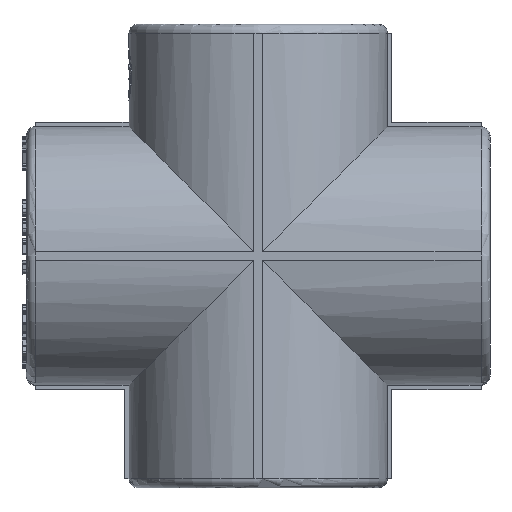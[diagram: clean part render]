
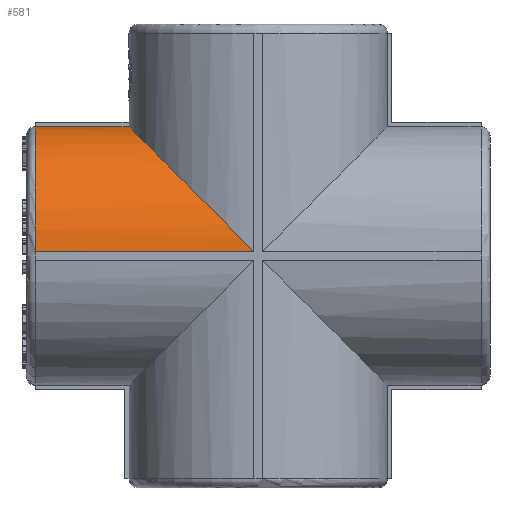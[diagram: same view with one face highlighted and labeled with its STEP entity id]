
A CAD part, left-side view. The second image highlights one B-rep face of the part: STEP entity #581.
In plain terms, the highlighted cylindrical face has radius 14.5 mm (diameter 29 mm), a partial arc.
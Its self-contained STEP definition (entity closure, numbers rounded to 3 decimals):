
#581=ADVANCED_FACE('',(#4572),#4574,.T.);
#4572=FACE_BOUND('',#4573,.T.);
#4573=EDGE_LOOP('',(#12137,#12138,#12139,#12140));
#4574=CYLINDRICAL_SURFACE('',#4575,14.5);
#4575=AXIS2_PLACEMENT_3D('',#4576,#4577,#4578);
#4576=CARTESIAN_POINT('',(0.,-26.,0.));
#4577=DIRECTION('',(0.,1.,0.));
#4578=DIRECTION('',(-1.,0.,0.));
#12137=ORIENTED_EDGE('',*,*,#17495,.F.);
#12138=ORIENTED_EDGE('',*,*,#17496,.T.);
#12139=ORIENTED_EDGE('',*,*,#17497,.F.);
#12140=ORIENTED_EDGE('',*,*,#17487,.F.);
#17487=EDGE_CURVE('',#21463,#21465,#21466,.T.);
#17495=EDGE_CURVE('',#21478,#21463,#21479,.T.);
#17496=EDGE_CURVE('',#21478,#21480,#21481,.F.);
#17497=EDGE_CURVE('',#21465,#21480,#21482,.F.);
#21463=VERTEX_POINT('',#29409);
#21465=VERTEX_POINT('',#29414);
#21466=CIRCLE('',#29415,14.5);
#21478=VERTEX_POINT('',#29447);
#21479=LINE('',#29448,#29449);
#21480=VERTEX_POINT('',#29451);
#21481=(BOUNDED_CURVE()B_SPLINE_CURVE(3,
(#29452,#29453,#29454,#29455),
.UNSPECIFIED.,.F.,.F.)B_SPLINE_CURVE_WITH_KNOTS((4,4),
(0.,1.),
.UNSPECIFIED.)CURVE()GEOMETRIC_REPRESENTATION_ITEM()RATIONAL_B_SPLINE_CURVE((1.,
0.821,0.821,1.))REPRESENTATION_ITEM(''));
#21482=LINE('',#29456,#29457);
#29409=CARTESIAN_POINT('',(-14.491,25.,0.5));
#29414=CARTESIAN_POINT('',(-0.5,25.,14.491));
#29415=AXIS2_PLACEMENT_3D('',#29416,#29417,#29418);
#29416=CARTESIAN_POINT('',(0.,25.,0.));
#29417=DIRECTION('',(0.,1.,0.));
#29418=DIRECTION('',(-0.999,0.,0.034));
#29447=CARTESIAN_POINT('',(-14.491,0.5,0.5));
#29448=CARTESIAN_POINT('',(-14.491,0.5,0.5));
#29449=VECTOR('',#29450,1.);
#29450=DIRECTION('',(0.,1.,0.));
#29451=CARTESIAN_POINT('',(-0.5,14.491,14.491));
#29452=CARTESIAN_POINT('',(-0.5,14.491,14.491));
#29453=CARTESIAN_POINT('',(-8.532,14.214,14.214));
#29454=CARTESIAN_POINT('',(-14.214,8.532,8.532));
#29455=CARTESIAN_POINT('',(-14.491,0.5,0.5));
#29456=CARTESIAN_POINT('',(-0.5,14.491,14.491));
#29457=VECTOR('',#29458,1.);
#29458=DIRECTION('',(0.,1.,0.));
